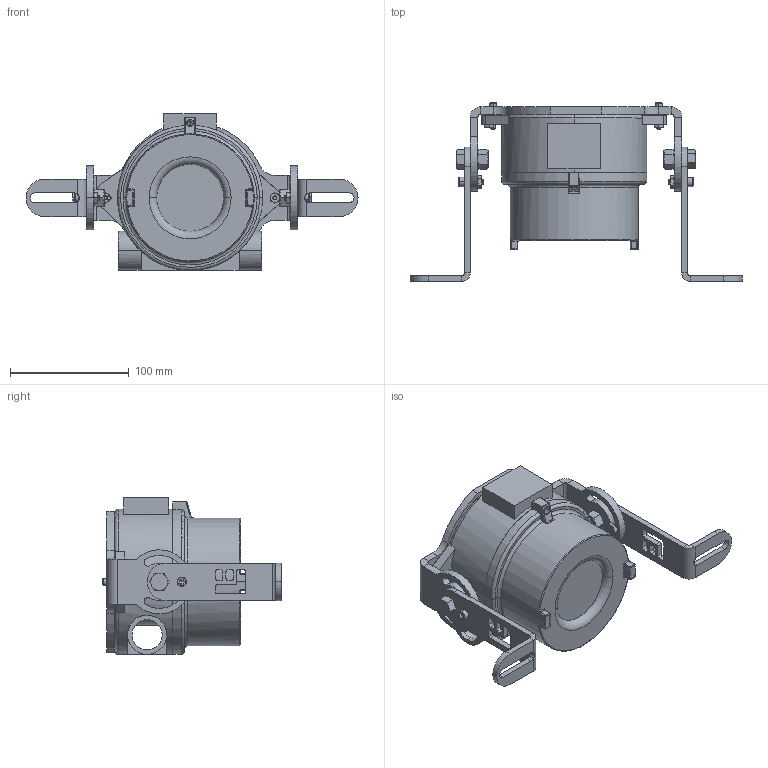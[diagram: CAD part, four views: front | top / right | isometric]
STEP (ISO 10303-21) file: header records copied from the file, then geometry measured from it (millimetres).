
FILE_DESCRIPTION (( 'STEP AP203' ), '1' );
FILE_NAME ('EXPCMR-IP-POE-4MP-IR-SGM.STEP', '2018-08-13T14:44:53', ( '' ), ( '' ), 'SwSTEP 2.0', 'SolidWorks 2016', '' );
FILE_SCHEMA (( 'CONFIG_CONTROL_DESIGN' ));
Length unit declared in the file: inch
Products named in the file (1): EXPCMR-IP-POE-4MP-IR-SGM
Bounding box: 279.68 x 150.6 x 132.12 mm (x, y, z)
Volume: 850889.8 mm3; surface area: 277698.8 mm2
Topology: 20 solids, 20 shells, 772 faces, 1830 edges, 1105 vertices
Faces by surface type: plane 292, cylinder 283, cone 114, torus 65, sphere 12, bspline 6
Entity records: 23643 total; most frequent: CARTESIAN_POINT 5617, DIRECTION 3932, ORIENTED_EDGE 3624, EDGE_CURVE 1812, AXIS2_PLACEMENT_3D 1546, VERTEX_POINT 1101, EDGE_LOOP 857, LINE 840
